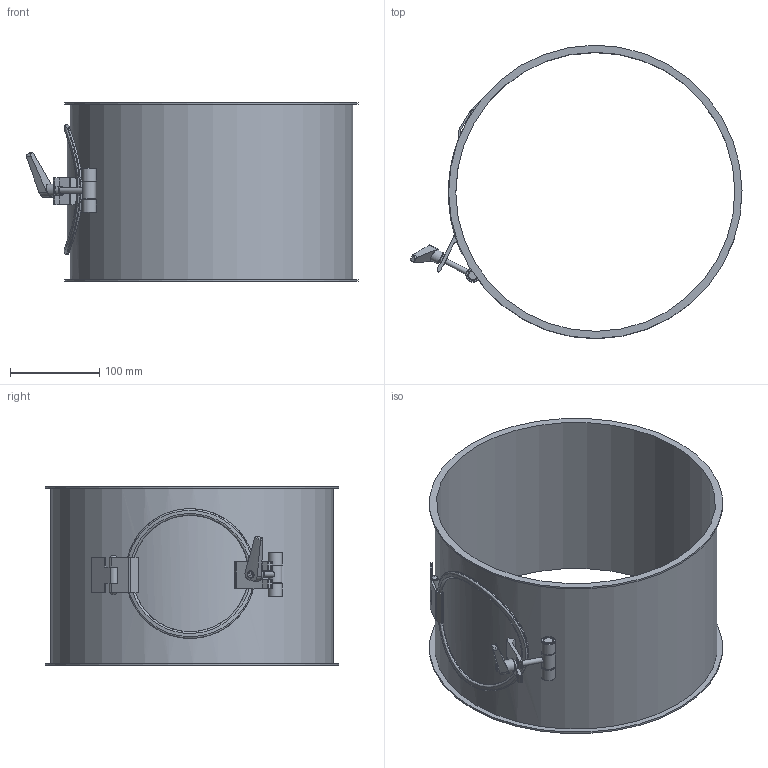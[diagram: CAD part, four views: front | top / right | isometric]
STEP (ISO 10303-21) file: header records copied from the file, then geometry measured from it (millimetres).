
FILE_DESCRIPTION((''),'2;1');
FILE_NAME('U:\Wolfgang\Marcel-3D\fertig\Kapitel 4\3121043.stp','2011-04-21T08:46:09',('TK1'),(''),'Autodesk Inventor 2010','Autodesk Inventor 2010','');
FILE_SCHEMA(('AUTOMOTIVE_DESIGN { 1 0 10303 214 1 1 1 1 }'));
Length unit declared in the file: millimetre
Products named in the file (13): 3121043 (Detailgenauigkeit1); 3121043-1; GelenkDeckel31b; GelenkDeckel1c; Deckel312; Deckel31; GelenkDeckel30a; dichtung31; Halterung Deckel31; VerschlussA; Verschluss1; Verschluss2; Verstellbarer Klemmhebel GN 101-14-M6-SW
Assembly tree (13 placements, depth 3):
  3121043 (Detailgenauigkeit1)
    3121043-1
    GelenkDeckel31b
    GelenkDeckel1c
    Deckel312
      Deckel31
      GelenkDeckel30a
      dichtung31
      Halterung Deckel31
    VerschlussA
      Verschluss1  x2
      Verschluss2
    Verstellbarer Klemmhebel GN 101-14-M6-SW
Bounding box: 371.23 x 327.99 x 200 mm (x, y, z)
Volume: 457778.8 mm3; surface area: 461872.8 mm2
Topology: 11 solids, 11 shells, 143 faces, 328 edges, 215 vertices
Faces by surface type: plane 67, cylinder 47, cone 18, torus 5, bspline 4, sphere 2
Full cylindrical faces by diameter (mm): 4.8 x1, 6 x5, 8 x1, 10 x3, 11 x2, 14 x1, 15 x1, 16 x2, 115 x1, 130 x1, 135 x1, 145 x1, 312 x1, 316 x1, 328 x2
Entity records: 5612 total; most frequent: CARTESIAN_POINT 2344, DIRECTION 632, ORIENTED_EDGE 532, EDGE_CURVE 266, AXIS2_PLACEMENT_3D 247, VERTEX_POINT 195, EDGE_LOOP 193, VECTOR 138
